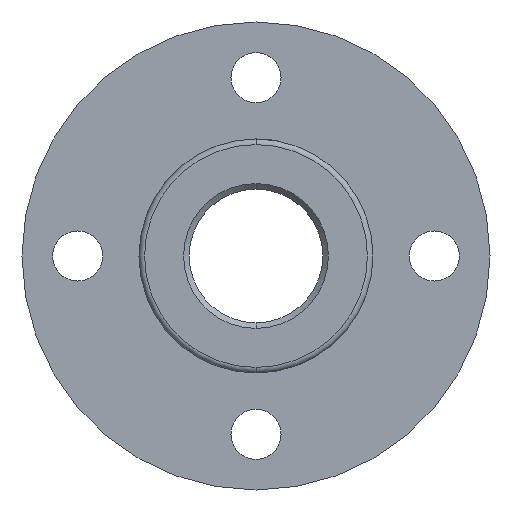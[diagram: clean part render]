
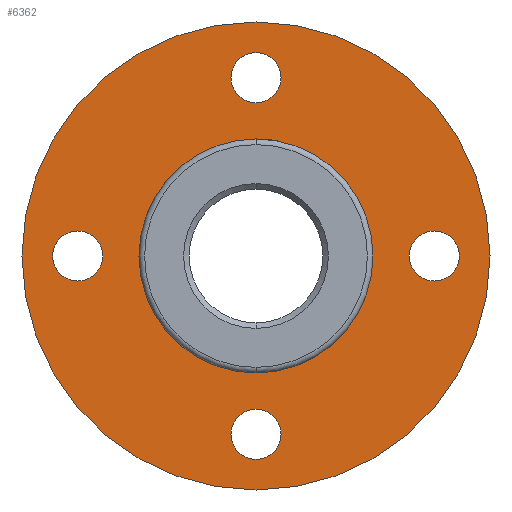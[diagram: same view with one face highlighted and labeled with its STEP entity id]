
A CAD part, front view. The second image highlights one B-rep face of the part: STEP entity #6362.
In plain terms, the highlighted planar face has unit normal (0, -1, 0).
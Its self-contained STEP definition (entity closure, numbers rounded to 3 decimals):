
#13 = DIRECTION ( 'NONE',  ( 0., 0., 1. ) ) ;
#191 = CARTESIAN_POINT ( 'NONE',  ( 0., 0., -10.5 ) ) ;
#250 = DIRECTION ( 'NONE',  ( 0., 0., 1. ) ) ;
#278 = DIRECTION ( 'NONE',  ( 0., 0., 1. ) ) ;
#624 = CARTESIAN_POINT ( 'NONE',  ( -16., 0., -2.25 ) ) ;
#877 = CARTESIAN_POINT ( 'NONE',  ( 0., 0., -16. ) ) ;
#905 = CARTESIAN_POINT ( 'NONE',  ( -16., 0., 0. ) ) ;
#919 = VERTEX_POINT ( 'NONE', #4352 ) ;
#928 = DIRECTION ( 'NONE',  ( 0., 1., 0. ) ) ;
#961 = CARTESIAN_POINT ( 'NONE',  ( 0., 0., 21. ) ) ;
#962 = EDGE_CURVE ( 'NONE', #2875, #3016, #6286, .T. ) ;
#992 = CIRCLE ( 'NONE', #1107, 10.5 ) ;
#1012 = EDGE_LOOP ( 'NONE', ( #4725, #4882 ) ) ;
#1054 = CIRCLE ( 'NONE', #3466, 2.25 ) ;
#1107 = AXIS2_PLACEMENT_3D ( 'NONE', #4647, #1174, #5671 ) ;
#1174 = DIRECTION ( 'NONE',  ( 0., 1., 0. ) ) ;
#1204 = EDGE_CURVE ( 'NONE', #919, #4578, #992, .T. ) ;
#1260 = CIRCLE ( 'NONE', #3967, 2.25 ) ;
#1270 = CARTESIAN_POINT ( 'NONE',  ( 0., 0., 18.25 ) ) ;
#1382 = AXIS2_PLACEMENT_3D ( 'NONE', #2181, #928, #1493 ) ;
#1404 = CIRCLE ( 'NONE', #5711, 2.25 ) ;
#1493 = DIRECTION ( 'NONE',  ( 0., 0., 1. ) ) ;
#1540 = EDGE_CURVE ( 'NONE', #5572, #6650, #4965, .T. ) ;
#1554 = AXIS2_PLACEMENT_3D ( 'NONE', #4144, #1927, #4713 ) ;
#1590 = DIRECTION ( 'NONE',  ( 0., 0., 1. ) ) ;
#1712 = AXIS2_PLACEMENT_3D ( 'NONE', #4243, #3070, #3049 ) ;
#1800 = DIRECTION ( 'NONE',  ( 0., 1., 0. ) ) ;
#1927 = DIRECTION ( 'NONE',  ( 0., 1., 0. ) ) ;
#1977 = CARTESIAN_POINT ( 'NONE',  ( 0., 0., -21. ) ) ;
#2066 = VERTEX_POINT ( 'NONE', #4728 ) ;
#2090 = ORIENTED_EDGE ( 'NONE', *, *, #1204, .T. ) ;
#2116 = EDGE_CURVE ( 'NONE', #3016, #2875, #6366, .T. ) ;
#2181 = CARTESIAN_POINT ( 'NONE',  ( 0., 0., 0. ) ) ;
#2207 = ORIENTED_EDGE ( 'NONE', *, *, #962, .F. ) ;
#2267 = VERTEX_POINT ( 'NONE', #3993 ) ;
#2295 = DIRECTION ( 'NONE',  ( 0., 1., 0. ) ) ;
#2310 = FACE_BOUND ( 'NONE', #5923, .T. ) ;
#2357 = VERTEX_POINT ( 'NONE', #1270 ) ;
#2391 = FACE_BOUND ( 'NONE', #6722, .T. ) ;
#2458 = DIRECTION ( 'NONE',  ( 0., 0., 1. ) ) ;
#2472 = AXIS2_PLACEMENT_3D ( 'NONE', #4569, #3400, #6733 ) ;
#2563 = DIRECTION ( 'NONE',  ( 0., 1., 0. ) ) ;
#2697 = VERTEX_POINT ( 'NONE', #6605 ) ;
#2744 = CARTESIAN_POINT ( 'NONE',  ( 0., 0., 0. ) ) ;
#2875 = VERTEX_POINT ( 'NONE', #1977 ) ;
#2918 = CARTESIAN_POINT ( 'NONE',  ( -16., 0., 0. ) ) ;
#3016 = VERTEX_POINT ( 'NONE', #961 ) ;
#3049 = DIRECTION ( 'NONE',  ( 0., 0., 1. ) ) ;
#3060 = DIRECTION ( 'NONE',  ( 0., 0., 1. ) ) ;
#3070 = DIRECTION ( 'NONE',  ( 0., 1., 0. ) ) ;
#3124 = PLANE ( 'NONE',  #1712 ) ;
#3168 = DIRECTION ( 'NONE',  ( 0., 1., 0. ) ) ;
#3232 = EDGE_LOOP ( 'NONE', ( #6043, #5085 ) ) ;
#3315 = ORIENTED_EDGE ( 'NONE', *, *, #3321, .T. ) ;
#3321 = EDGE_CURVE ( 'NONE', #2697, #2357, #1260, .T. ) ;
#3400 = DIRECTION ( 'NONE',  ( 0., 1., 0. ) ) ;
#3449 = FACE_BOUND ( 'NONE', #4829, .T. ) ;
#3466 = AXIS2_PLACEMENT_3D ( 'NONE', #877, #2563, #3060 ) ;
#3586 = EDGE_CURVE ( 'NONE', #5761, #4181, #7059, .T. ) ;
#3748 = AXIS2_PLACEMENT_3D ( 'NONE', #4968, #4401, #1590 ) ;
#3948 = CARTESIAN_POINT ( 'NONE',  ( 0., 0., 16. ) ) ;
#3967 = AXIS2_PLACEMENT_3D ( 'NONE', #3948, #2295, #13 ) ;
#3993 = CARTESIAN_POINT ( 'NONE',  ( 0., 0., -13.75 ) ) ;
#4144 = CARTESIAN_POINT ( 'NONE',  ( 0., 0., -16. ) ) ;
#4181 = VERTEX_POINT ( 'NONE', #5556 ) ;
#4219 = CIRCLE ( 'NONE', #2472, 2.25 ) ;
#4228 = AXIS2_PLACEMENT_3D ( 'NONE', #2744, #6671, #7228 ) ;
#4243 = CARTESIAN_POINT ( 'NONE',  ( 0., 0., 0. ) ) ;
#4352 = CARTESIAN_POINT ( 'NONE',  ( 0., 0., 10.5 ) ) ;
#4401 = DIRECTION ( 'NONE',  ( 0., 1., 0. ) ) ;
#4414 = FACE_OUTER_BOUND ( 'NONE', #6385, .T. ) ;
#4436 = CIRCLE ( 'NONE', #3748, 10.5 ) ;
#4564 = EDGE_CURVE ( 'NONE', #2267, #2066, #5384, .T. ) ;
#4569 = CARTESIAN_POINT ( 'NONE',  ( 16., 0., 0. ) ) ;
#4578 = VERTEX_POINT ( 'NONE', #191 ) ;
#4619 = DIRECTION ( 'NONE',  ( 0., 1., 0. ) ) ;
#4647 = CARTESIAN_POINT ( 'NONE',  ( 0., 0., 0. ) ) ;
#4713 = DIRECTION ( 'NONE',  ( 0., 0., 1. ) ) ;
#4725 = ORIENTED_EDGE ( 'NONE', *, *, #1540, .T. ) ;
#4728 = CARTESIAN_POINT ( 'NONE',  ( 0., 0., -18.25 ) ) ;
#4829 = EDGE_LOOP ( 'NONE', ( #5680, #6435 ) ) ;
#4882 = ORIENTED_EDGE ( 'NONE', *, *, #5798, .T. ) ;
#4938 = CARTESIAN_POINT ( 'NONE',  ( 16., 0., 2.25 ) ) ;
#4965 = CIRCLE ( 'NONE', #6673, 2.25 ) ;
#4968 = CARTESIAN_POINT ( 'NONE',  ( 0., 0., 0. ) ) ;
#5085 = ORIENTED_EDGE ( 'NONE', *, *, #6955, .T. ) ;
#5270 = CIRCLE ( 'NONE', #6471, 2.25 ) ;
#5357 = CARTESIAN_POINT ( 'NONE',  ( 0., 0., 16. ) ) ;
#5375 = DIRECTION ( 'NONE',  ( 0., 1., 0. ) ) ;
#5384 = CIRCLE ( 'NONE', #1554, 2.25 ) ;
#5556 = CARTESIAN_POINT ( 'NONE',  ( -16., 0., 2.25 ) ) ;
#5572 = VERTEX_POINT ( 'NONE', #4938 ) ;
#5671 = DIRECTION ( 'NONE',  ( 0., 0., 1. ) ) ;
#5680 = ORIENTED_EDGE ( 'NONE', *, *, #6860, .T. ) ;
#5701 = EDGE_CURVE ( 'NONE', #4578, #919, #4436, .T. ) ;
#5706 = ORIENTED_EDGE ( 'NONE', *, *, #2116, .F. ) ;
#5711 = AXIS2_PLACEMENT_3D ( 'NONE', #5357, #3168, #278 ) ;
#5761 = VERTEX_POINT ( 'NONE', #624 ) ;
#5798 = EDGE_CURVE ( 'NONE', #6650, #5572, #4219, .T. ) ;
#5923 = EDGE_LOOP ( 'NONE', ( #2090, #6175 ) ) ;
#6043 = ORIENTED_EDGE ( 'NONE', *, *, #4564, .T. ) ;
#6175 = ORIENTED_EDGE ( 'NONE', *, *, #5701, .T. ) ;
#6211 = CARTESIAN_POINT ( 'NONE',  ( 16., 0., 0. ) ) ;
#6286 = CIRCLE ( 'NONE', #1382, 21. ) ;
#6362 = ADVANCED_FACE ( 'NONE', ( #2310, #6509, #7039, #2391, #3449, #4414 ), #3124, .F. ) ;
#6366 = CIRCLE ( 'NONE', #4228, 21. ) ;
#6385 = EDGE_LOOP ( 'NONE', ( #2207, #5706 ) ) ;
#6435 = ORIENTED_EDGE ( 'NONE', *, *, #3586, .T. ) ;
#6471 = AXIS2_PLACEMENT_3D ( 'NONE', #905, #5375, #250 ) ;
#6509 = FACE_BOUND ( 'NONE', #3232, .T. ) ;
#6521 = CARTESIAN_POINT ( 'NONE',  ( 16., 0., -2.25 ) ) ;
#6599 = EDGE_CURVE ( 'NONE', #2357, #2697, #1404, .T. ) ;
#6605 = CARTESIAN_POINT ( 'NONE',  ( 0., 0., 13.75 ) ) ;
#6650 = VERTEX_POINT ( 'NONE', #6521 ) ;
#6671 = DIRECTION ( 'NONE',  ( 0., 1., 0. ) ) ;
#6673 = AXIS2_PLACEMENT_3D ( 'NONE', #6211, #1800, #6841 ) ;
#6722 = EDGE_LOOP ( 'NONE', ( #6741, #3315 ) ) ;
#6733 = DIRECTION ( 'NONE',  ( 0., 0., 1. ) ) ;
#6741 = ORIENTED_EDGE ( 'NONE', *, *, #6599, .T. ) ;
#6841 = DIRECTION ( 'NONE',  ( 0., 0., 1. ) ) ;
#6860 = EDGE_CURVE ( 'NONE', #4181, #5761, #5270, .T. ) ;
#6955 = EDGE_CURVE ( 'NONE', #2066, #2267, #1054, .T. ) ;
#7039 = FACE_BOUND ( 'NONE', #1012, .T. ) ;
#7059 = CIRCLE ( 'NONE', #7251, 2.25 ) ;
#7228 = DIRECTION ( 'NONE',  ( 0., 0., 1. ) ) ;
#7251 = AXIS2_PLACEMENT_3D ( 'NONE', #2918, #4619, #2458 ) ;
